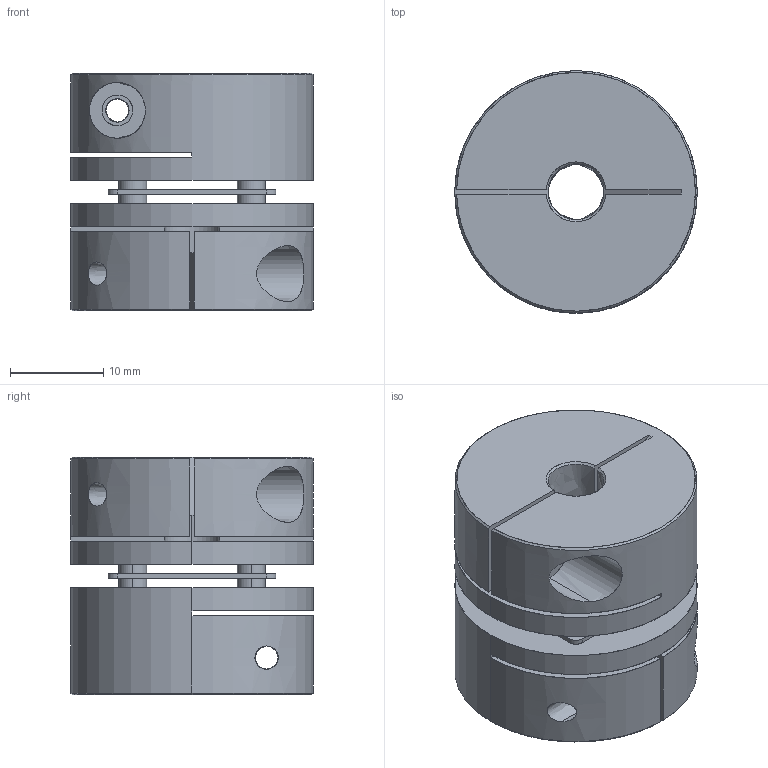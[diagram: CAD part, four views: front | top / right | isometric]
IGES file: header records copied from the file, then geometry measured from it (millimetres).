
Start section: SolidWorks IGES file using analytic representation for surfaces
Bounding box: 26 x 26 x 25.5 mm (x, y, z)
Surface area: 6654.3 mm2 (no closed solid volume)
Topology: 0 solids, 0 shells, 87 faces, 1859 edges, 1859 vertices
Faces by surface type: revolution 55, bspline 32
